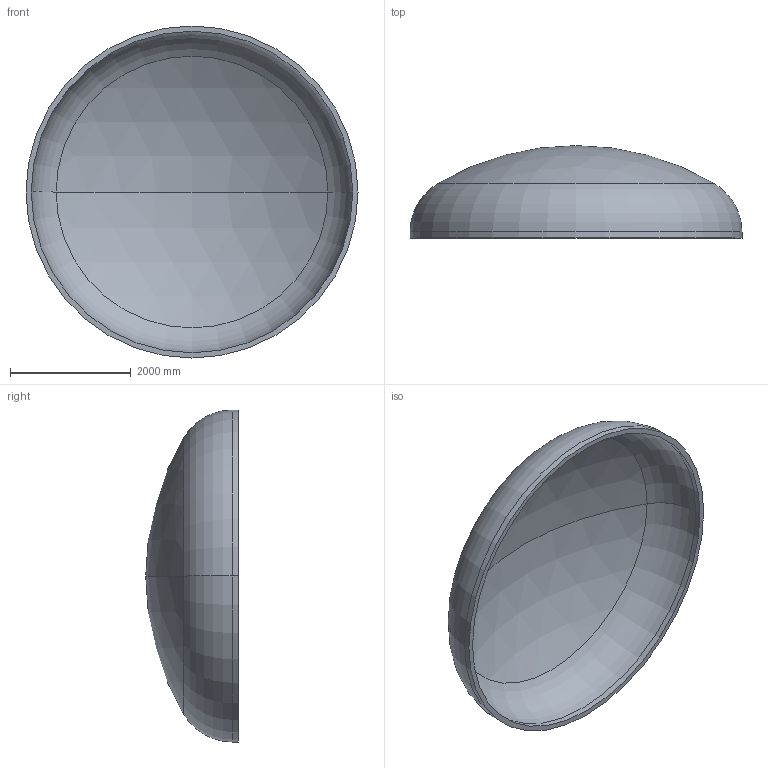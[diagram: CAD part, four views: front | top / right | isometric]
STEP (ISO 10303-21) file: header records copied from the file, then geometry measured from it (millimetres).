
FILE_DESCRIPTION (( 'STEP AP203' ), '1' );
FILE_NAME ('DIN 28013 Korbbogenform_-_Boden DIN 28013 - 5500 x 100 - I - s=86.step', '2016-07-04T10:34:56', ( '' ), ( '' ), 'SwSTEP 2.0', 'SolidWorks 2013', '' );
FILE_SCHEMA (( 'CONFIG_CONTROL_DESIGN' ));
Length unit declared in the file: millimetre
Products named in the file (1): DIN 28013 Korbbogenform_-_Boden DIN 28013 - 5500 x 100 - I - s=86
Bounding box: 5500 x 1531.62 x 5500 mm (x, y, z)
Volume: 2916986790.5 mm3; surface area: 69315105.1 mm2
Topology: 1 solids, 1 shells, 13 faces, 24 edges, 14 vertices
Faces by surface type: torus 4, cylinder 4, sphere 4, plane 1
Entity records: 407 total; most frequent: DIRECTION 72, CARTESIAN_POINT 52, ORIENTED_EDGE 48, AXIS2_PLACEMENT_3D 34, EDGE_CURVE 24, CIRCLE 20, EDGE_LOOP 14, VERTEX_POINT 14
